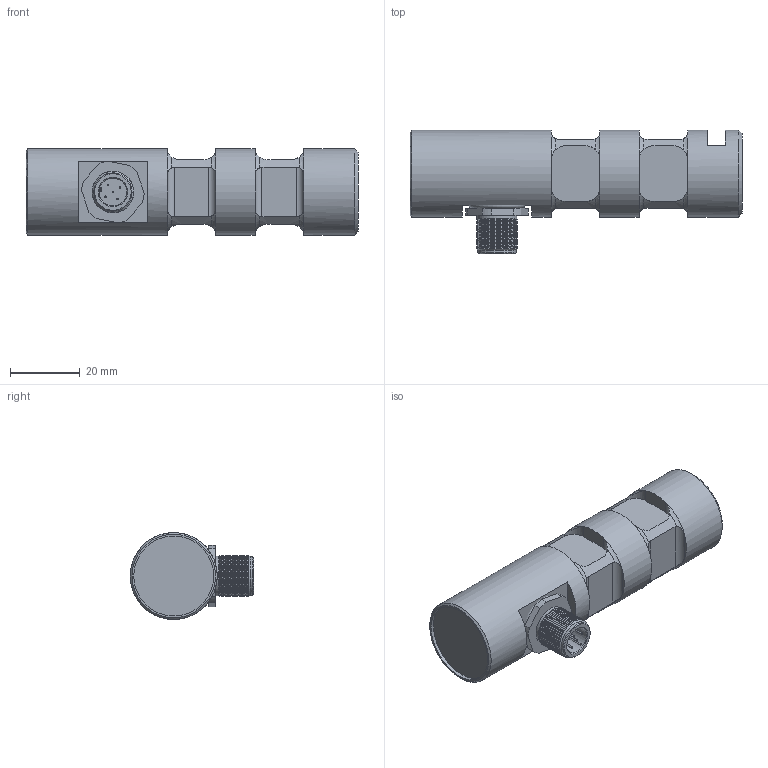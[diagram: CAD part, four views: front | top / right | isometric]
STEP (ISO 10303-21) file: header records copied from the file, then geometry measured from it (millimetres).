
FILE_DESCRIPTION(/* description */ ('Alibre Inc.'),/* implementation_level */ '2;1');
FILE_NAME(/* name */ 'export-3328580A-A3BC-46C5-9126-B270A08B8E50',/* time_stamp */ '2020-01-31T13:45:14+01:00',/* author */ (''),/* organization */ (''),/* preprocessor_version */ 'ST-DEVELOPER v17',/* originating_system */ 'Alibre',/* authorisation */ '');
FILE_SCHEMA (('CONFIG_CONTROL_DESIGN'));
Length unit declared in the file: centimetre
Bounding box: 95.5 x 35.5 x 25 mm (x, y, z)
Surface area: 162880 mm2
Topology: 7 solids, 8 shells, 256 faces, 566 edges, 334 vertices
Faces by surface type: cylinder 88, plane 79, cone 71, torus 18
Full cylindrical faces by diameter (mm): 0.5 x10, 8 x2, 10 x1, 11 x1, 11.5 x1, 12 x21, 13 x2, 14.5 x1, 23 x1, 25 x3
Entity records: 6392 total; most frequent: CARTESIAN_POINT 1653, ORIENTED_EDGE 926, DIRECTION 738, EDGE_CURVE 457, EDGE_LOOP 371, FACE_BOUND 371, AXIS2_PLACEMENT_3D 341, VERTEX_POINT 320
